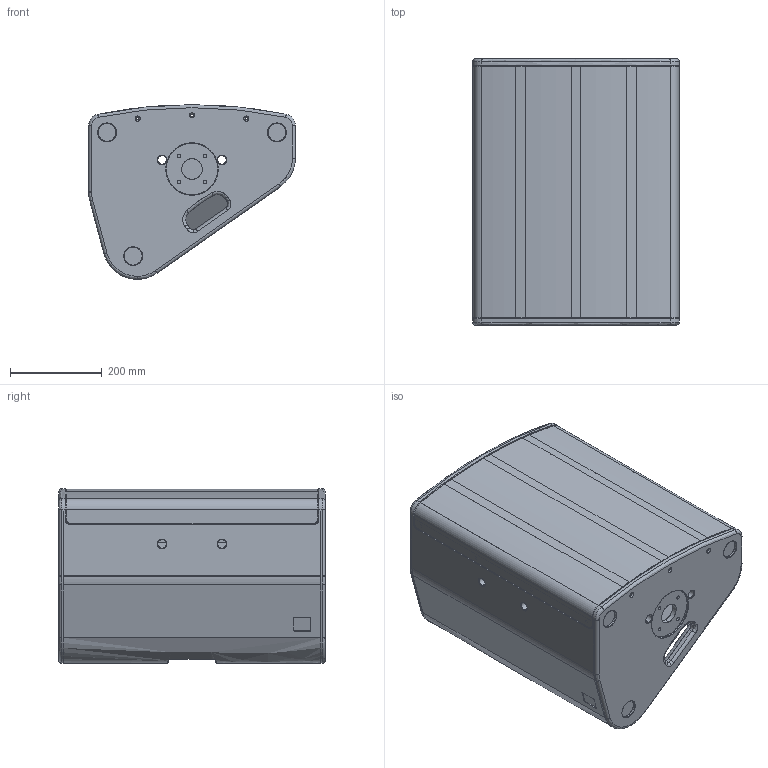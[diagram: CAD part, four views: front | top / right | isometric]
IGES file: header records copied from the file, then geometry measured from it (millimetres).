
Start section: SolidWorks IGES file using analytic representation for surfaces
Global section: file name: C:\Users\Michl\Documents\Michl\SolidWorks\X-Serie\3D-Dateien_Homepage\SEEBURG_X8.IGS; native system: SolidWorks 2009; preprocessor: SolidWorks 2009; author: Michl; date: 180920.104455; units: millimetre
Bounding box: 450 x 580 x 380 mm (x, y, z)
Surface area: 2249041.2 mm2 (no closed solid volume)
Topology: 0 solids, 0 shells, 518 faces, 7146 edges, 7144 vertices
Faces by surface type: revolution 296, bspline 222
